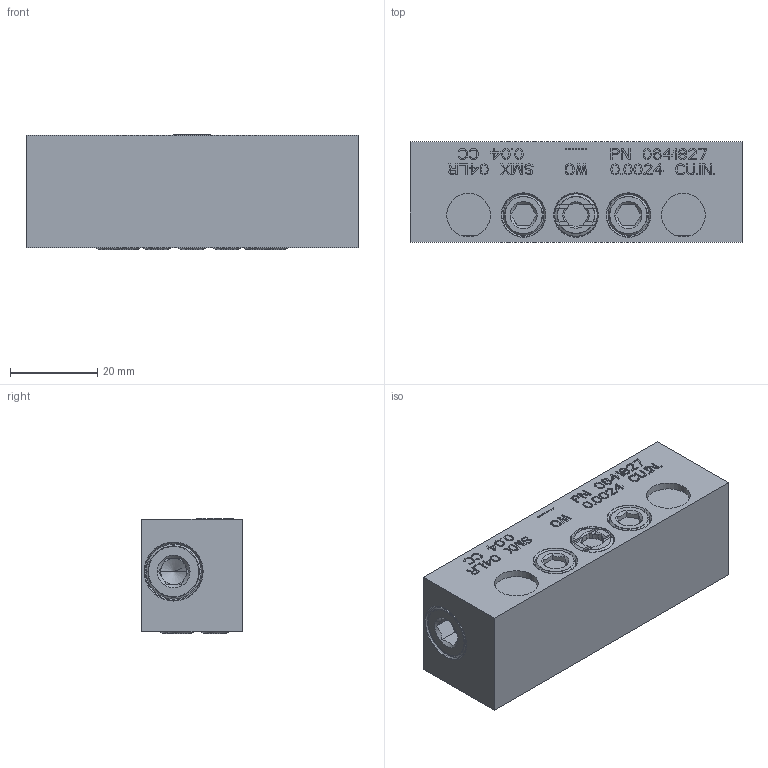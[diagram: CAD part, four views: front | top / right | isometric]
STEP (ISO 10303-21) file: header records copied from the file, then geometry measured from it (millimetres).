
FILE_DESCRIPTION((''),'2;1');
FILE_NAME('0641827_SMX_04LR','2023-07-21T12:06:34',('pietro.masciave'),(''),'CREO PARAMETRIC BY PTC INC, 2022281','CREO PARAMETRIC BY PTC INC, 2022281','');
FILE_SCHEMA(('CONFIG_CONTROL_DESIGN'));
Length unit declared in the file: millimetre
Products named in the file (1): 0641827_SMX_04LR
Bounding box: 76 x 23 x 26.33 mm (x, y, z)
Volume: 44001.9 mm3; surface area: 12685.2 mm2
Topology: 1 solids, 14 shells, 1319 faces, 3623 edges, 2407 vertices
Faces by surface type: plane 1143, cylinder 110, cone 44, torus 22
Entity records: 42441 total; most frequent: CARTESIAN_POINT 8647, ORIENTED_EDGE 7198, DIRECTION 6540, EDGE_CURVE 3619, VECTOR 3184, LINE 3184, VERTEX_POINT 2407, AXIS2_PLACEMENT_3D 1678
